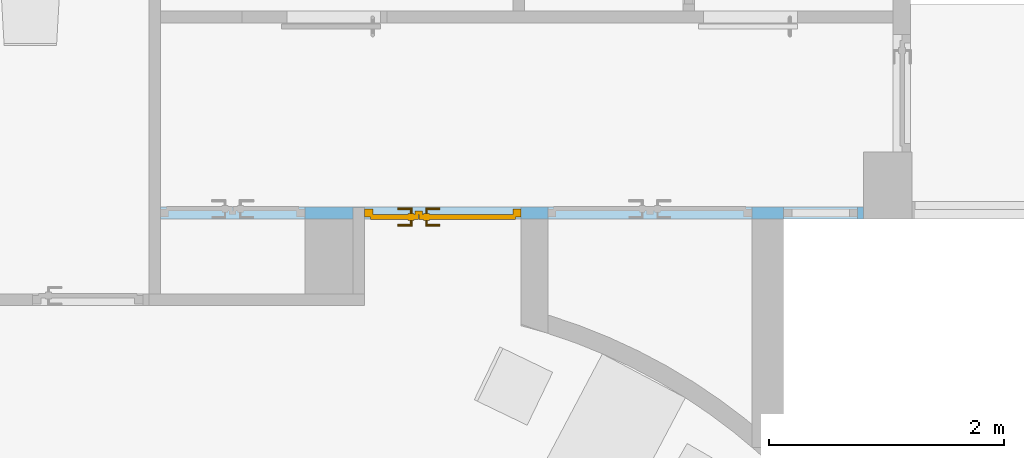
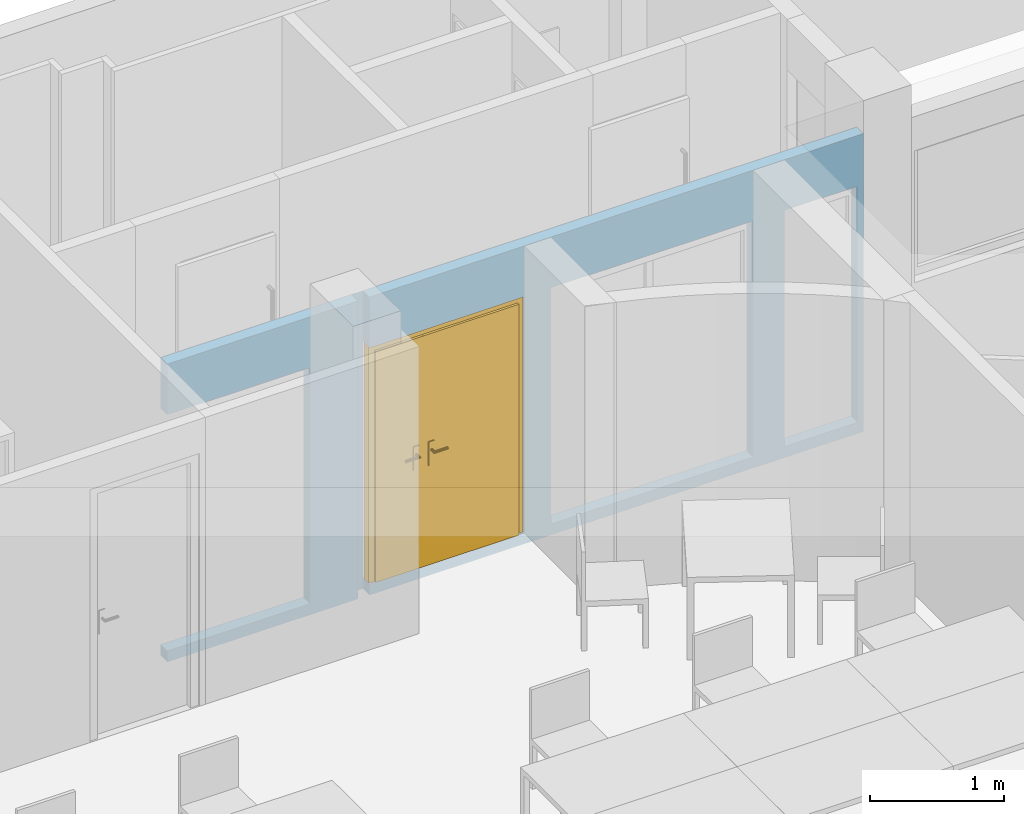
"""IFC4 building model written with IfcOpenShell, lengths in metres."""

from ifc_helpers import new_model, entity, si_unit, converted_unit, derived_unit, frame, origin, origin_with_axes, place, context, subcontext, project, spatial, polyline, outline, extrude, faceted_brep, source, transform, mapped, material, layer, layer_set, layer_usage, element, fill, save


model = new_model("IFC4")

# Units and contexts
model_context = context("Model", 3, precision=1e-05, world=origin())
body_context = subcontext(model_context, "Body", "Model", "MODEL_VIEW")
ifc_project = project(units=[si_unit("LENGTHUNIT", "METRE"), si_unit("AREAUNIT", "SQUARE_METRE"), si_unit("VOLUMEUNIT", "CUBIC_METRE"), si_unit("MASSUNIT", "GRAM", prefix="KILO"), converted_unit("PLANEANGLEUNIT", "DEGREE", entity("IfcPlaneAngleMeasure", 0.0174532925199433), si_unit("PLANEANGLEUNIT", "RADIAN"), dimensions=[0, 0, 0, 0, 0, 0, 0]), derived_unit("THERMALTRANSMITTANCEUNIT", [(si_unit("POWERUNIT", "WATT"), 1), (si_unit("THERMODYNAMICTEMPERATUREUNIT", "KELVIN"), -1), (si_unit("LENGTHUNIT", "METRE"), -2)]), derived_unit("VOLUMETRICFLOWRATEUNIT", [(si_unit("LENGTHUNIT", "METRE"), 3), (converted_unit("TIMEUNIT", "hour", entity("IfcTimeMeasure", 3600.0), si_unit("TIMEUNIT", "SECOND"), dimensions=[0, 0, 1, 0, 0, 0, 0]), -1), (si_unit("LENGTHUNIT", "METRE"), -1)])], contexts=[model_context])

# Building, storeys
building_placement = place(None, origin())
building = spatial("IfcBuilding", under=ifc_project, at=building_placement, Name="HABITATGE PLURIFAMILIAR", CompositionType="ELEMENT")
storey_1_placement = place(building_placement, frame((0.0, 0.0, 6.25)))
storey_1 = spatial("IfcBuildingStorey", under=building, at=storey_1_placement, Name="PLANTA PRIMERA", CompositionType="ELEMENT", Elevation=6.25)
storey_2_placement = place(storey_1_placement, frame((0.0, 0.0, 3.35)))
storey_2 = spatial("IfcBuildingStorey", under=storey_1, at=storey_2_placement, Name="NOU", CompositionType="PARTIAL")

# Wall, openings, door
ifc_material = material()
ifc_layer = layer(ifc_material, 0.1)
ifc_layer_set = layer_set([ifc_layer])
ifc_layer_usage = layer_usage(ifc_layer_set, "AXIS2", "POSITIVE", 0.0)
wall_placement = place(storey_2_placement, frame((410.426984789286, 24.2594598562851, -3.45), z_axis=(0.0, 0.0, 1.0), x_axis=(-1.0, 0.0, 0.0)))
wall = element("IfcWall", 1, at=wall_placement, inside=storey_2, material=ifc_layer_usage, Name="Envans P1", context=body_context, shape_type="SweptSolid", body=[
    extrude(outline(polyline([(-5.99000001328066, -0.1), (0.0, -0.1), (0.0, 0.0), (-1.63999999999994, 0.0), (-1.63999999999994, -0.0977698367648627), (-1.74, -0.0977698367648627), (-1.74, 0.0), (-5.99000001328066, 0.0), (-5.99000001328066, -0.1)])), frame((5.99000001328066, 0.1, 0.0), z_axis=(0.0, 0.0, 1.0), x_axis=(1.0, 0.0, 0.0)), (0.0, 0.0, 1.0), 2.71),
])
opening_1_placement = place(wall_placement, frame((4.25000001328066, 0.1, 0.1), z_axis=(0.0, 0.0, 1.0), x_axis=(-1.0, 0.0, 0.0)))
opening_1 = element("IfcOpeningElement", 2, at=opening_1_placement, cuts=wall, Name="Vano de puerta P1", ObjectType="Opening", context=body_context, shape_type="SweptSolid", body=[
    extrude(outline(polyline([(0.0, 0.0), (1.33, 0.0), (1.33311274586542, 0.1), (0.0, 0.1), (0.0, 0.0)])), origin_with_axes(), (0.0, 0.0, 1.0), 2.15),
])
opening_2_placement = place(wall_placement, frame((5.99036691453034, 0.1, 0.1), z_axis=(0.0, -1.0, 0.0), x_axis=(0.0, 0.0, 1.0)))
element("IfcOpeningElement", 3, at=opening_2_placement, cuts=wall, Name="Vano de puerta P1", ObjectType="Opening", context=body_context, shape_type="SweptSolid", body=[
    extrude(outline(polyline([(2.15, 1.23), (2.15, 0.0), (0.0, 0.0), (0.0, 1.23), (2.15, 1.23)])), origin_with_axes(), (0.0, 0.0, 1.0), 0.1),
])
opening_3_placement = place(wall_placement, frame((0.679999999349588, 0.1, 0.1), z_axis=(0.0, -1.0, 0.0), x_axis=(0.0, 0.0, 1.0)))
element("IfcOpeningElement", 4, at=opening_3_placement, cuts=wall, Name="Vano de puerta P1", ObjectType="Opening", context=body_context, shape_type="SweptSolid", body=[
    extrude(outline(polyline([(2.15, 0.629999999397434), (2.15, 0.0), (0.0, 0.0), (0.0, 0.629999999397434), (2.15, 0.629999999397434)])), origin_with_axes(), (0.0, 0.0, 1.0), 0.1),
])
opening_4_placement = place(wall_placement, frame((2.69000001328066, 0.1, 0.1), z_axis=(0.0, -1.0, 0.0), x_axis=(0.0, 0.0, 1.0)))
element("IfcOpeningElement", 5, at=opening_4_placement, cuts=wall, Name="Vano de puerta P1", ObjectType="Opening", context=body_context, shape_type="SweptSolid", body=[
    extrude(outline(polyline([(2.15, 1.73999999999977), (2.15, 0.0), (0.0, 0.0), (0.0, 1.73999999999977), (2.15, 1.73999999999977)])), origin_with_axes(), (0.0, 0.0, 1.0), 0.1),
])
shared_shape = source(origin_with_axes(), body_context, "Body", "Brep", [
    faceted_brep([(1.33, 0.07, 2.15), (1.25983617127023, 0.07, 2.15), (1.25983617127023, 0.07, 0.0), (1.33, 0.07, 0.0), (1.33, 0.0, 0.0), (1.25983617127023, 0.0, 0.0), (1.25983617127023, 0.0, 2.15), (1.33, 0.0, 2.15)], [[[0, 1, 2, 3]], [[4, 5, 6, 7]], [[3, 4, 7, 0]], [[2, 5, 4, 3]], [[1, 6, 5, 2]], [[0, 7, 6, 1]]], orient=[[False], [False], [False], [False], [False], [False]]),
    faceted_brep([(0.0670510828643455, 0.07, 2.15), (-0.00311274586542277, 0.07, 2.15), (-0.00311274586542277, 0.07, 0.0), (0.0670510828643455, 0.07, 0.0), (0.0670510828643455, 0.0, 0.0), (-0.00311274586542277, 0.0, 0.0), (-0.00311274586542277, 0.0, 2.15), (0.0670510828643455, 0.0, 2.15)], [[[0, 1, 2, 3]], [[4, 5, 6, 7]], [[3, 4, 7, 0]], [[2, 5, 4, 3]], [[1, 6, 5, 2]], [[0, 7, 6, 1]]], orient=[[False], [False], [False], [False], [False], [False]]),
    faceted_brep([(1.25983617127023, 0.07, 2.15), (0.0670510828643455, 0.07, 2.15), (0.0670510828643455, 0.07, 2.08), (1.25983617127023, 0.07, 2.08), (1.25983617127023, 0.0, 2.08), (0.0670510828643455, 0.0, 2.08), (0.0670510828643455, 0.0, 2.15), (1.25983617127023, 0.0, 2.15)], [[[0, 1, 2, 3]], [[4, 5, 6, 7]], [[3, 4, 7, 0]], [[2, 5, 4, 3]], [[1, 6, 5, 2]], [[0, 7, 6, 1]]], orient=[[False], [False], [False], [False], [False], [False]]),
    faceted_brep([(1.27988297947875, 0.09, 2.1), (0.86992575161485, 0.09, 2.1), (0.86992575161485, 0.09, 0.0), (1.27988297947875, 0.09, 0.0), (1.27988297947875, 0.05, 0.0), (0.86992575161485, 0.05, 0.0), (0.86992575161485, 0.05, 2.1), (1.27988297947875, 0.05, 2.1)], [[[0, 1, 2, 3]], [[4, 5, 6, 7]], [[3, 4, 7, 0]], [[2, 5, 4, 3]], [[1, 6, 5, 2]], [[0, 7, 6, 1]]], orient=[[False], [False], [False], [False], [False], [False]]),
    faceted_brep([(0.899995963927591, 0.05, 2.08), (0.839855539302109, 0.05, 2.08), (0.839855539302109, 0.05, 0.0), (0.899995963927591, 0.05, 0.0), (0.899995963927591, 0.02, 0.0), (0.839855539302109, 0.02, 0.0), (0.839855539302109, 0.02, 2.08), (0.899995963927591, 0.02, 2.08)], [[[0, 1, 2, 3]], [[4, 5, 6, 7]], [[3, 4, 7, 0]], [[2, 5, 4, 3]], [[1, 6, 5, 2]], [[0, 7, 6, 1]]], orient=[[False], [False], [False], [False], [False], [False]]),
    faceted_brep([(0.960136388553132, 0.05, 1.125), (0.910019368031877, 0.05, 1.125), (0.910019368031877, 0.05, 0.91), (0.960136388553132, 0.05, 0.91), (0.960136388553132, 0.04, 0.91), (0.910019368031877, 0.04, 0.91), (0.910019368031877, 0.04, 1.125), (0.960136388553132, 0.04, 1.125)], [[[0, 1, 2, 3]], [[4, 5, 6, 7]], [[3, 4, 7, 0]], [[2, 5, 4, 3]], [[1, 6, 5, 2]], [[0, 7, 6, 1]]], orient=[[False], [False], [False], [False], [False], [False]]),
    faceted_brep([(0.935077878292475, 0.04, 1.06), (0.930066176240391, 0.04, 1.05866025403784), (0.926397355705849, 0.04, 1.055), (0.925054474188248, 0.04, 1.05), (0.926397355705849, 0.04, 1.045), (0.930066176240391, 0.04, 1.04133974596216), (0.935077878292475, 0.04, 1.04), (0.940089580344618, 0.04, 1.04133974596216), (0.94375840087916, 0.04, 1.045), (0.945101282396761, 0.04, 1.05), (0.94375840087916, 0.04, 1.055), (0.940089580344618, 0.04, 1.05866025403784), (0.935077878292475, 0.0, 1.06), (0.930066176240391, -0.005, 1.05866025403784), (0.926397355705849, -0.00866025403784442, 1.055), (0.925054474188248, -0.01, 1.05), (0.926397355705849, -0.00866025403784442, 1.045), (0.930066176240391, -0.005, 1.04133974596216), (0.935077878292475, 0.0, 1.04), (0.940089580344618, 0.005, 1.04133974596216), (0.94375840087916, 0.00866025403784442, 1.045), (0.945101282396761, 0.01, 1.05), (0.94375840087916, 0.00866025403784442, 1.055), (0.940089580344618, 0.005, 1.05866025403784), (1.05034702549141, 0.0, 1.06), (1.05034702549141, 0.005, 1.05866025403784), (1.05034702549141, 0.00866025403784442, 1.055), (1.05034702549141, 0.01, 1.05), (1.05034702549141, 0.00866025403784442, 1.045), (1.05034702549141, 0.005, 1.04133974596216), (1.05034702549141, 0.0, 1.04), (1.05034702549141, -0.005, 1.04133974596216), (1.05034702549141, -0.00866025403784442, 1.045), (1.05034702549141, -0.01, 1.05), (1.05034702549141, -0.00866025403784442, 1.055), (1.05034702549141, -0.005, 1.05866025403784)], [[[0, 1, 2, 3, 4, 5, 6, 7, 8, 9, 10, 11]], [[0, 12, 13, 1]], [[1, 13, 14, 2]], [[2, 14, 15, 3]], [[3, 15, 16, 4]], [[4, 16, 17, 5]], [[5, 17, 18, 6]], [[6, 18, 19, 7]], [[7, 19, 20, 8]], [[8, 20, 21, 9]], [[9, 21, 22, 10]], [[10, 22, 23, 11]], [[11, 23, 12, 0]], [[24, 25, 26, 27, 28, 29, 30, 31, 32, 33, 34, 35]], [[12, 24, 35, 13]], [[13, 35, 34, 14]], [[14, 34, 33, 15]], [[15, 33, 32, 16]], [[16, 32, 31, 17]], [[17, 31, 30, 18]], [[18, 30, 29, 19]], [[19, 29, 28, 20]], [[20, 28, 27, 21]], [[21, 27, 26, 22]], [[22, 26, 25, 23]], [[23, 25, 24, 12]]], orient=[[False], [False], [False], [False], [False], [False], [False], [False], [False], [False], [False], [False], [False], [False], [False], [False], [False], [False], [False], [False], [False], [False], [False], [False], [False], [False]]),
    faceted_brep([(0.960136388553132, 0.09, 1.125), (0.960136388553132, 0.09, 0.91), (0.910019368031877, 0.09, 0.91), (0.910019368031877, 0.09, 1.125), (0.960136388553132, 0.1, 0.91), (0.960136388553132, 0.1, 1.125), (0.910019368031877, 0.1, 1.125), (0.910019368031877, 0.1, 0.91)], [[[0, 1, 2, 3]], [[4, 5, 6, 7]], [[1, 0, 5, 4]], [[2, 1, 4, 7]], [[3, 2, 7, 6]], [[0, 3, 6, 5]]], orient=[[False], [False], [False], [False], [False], [False]]),
    faceted_brep([(0.935077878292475, 0.1, 1.06), (0.940089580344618, 0.1, 1.05866025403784), (0.94375840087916, 0.1, 1.055), (0.945101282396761, 0.1, 1.05), (0.94375840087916, 0.1, 1.045), (0.940089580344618, 0.1, 1.04133974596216), (0.935077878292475, 0.1, 1.04), (0.930066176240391, 0.1, 1.04133974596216), (0.926397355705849, 0.1, 1.045), (0.925054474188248, 0.1, 1.05), (0.926397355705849, 0.1, 1.055), (0.930066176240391, 0.1, 1.05866025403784), (0.930066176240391, 0.145, 1.05866025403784), (0.935077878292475, 0.14, 1.06), (0.926397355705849, 0.148660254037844, 1.055), (0.925054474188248, 0.15, 1.05), (0.926397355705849, 0.148660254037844, 1.045), (0.930066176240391, 0.145, 1.04133974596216), (0.935077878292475, 0.14, 1.04), (0.940089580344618, 0.135, 1.04133974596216), (0.94375840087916, 0.131339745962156, 1.045), (0.945101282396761, 0.13, 1.05), (0.94375840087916, 0.131339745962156, 1.055), (0.940089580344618, 0.135, 1.05866025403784), (1.05034702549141, 0.14, 1.06), (1.05034702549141, 0.145, 1.05866025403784), (1.05034702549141, 0.148660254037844, 1.055), (1.05034702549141, 0.15, 1.05), (1.05034702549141, 0.148660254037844, 1.045), (1.05034702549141, 0.145, 1.04133974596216), (1.05034702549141, 0.14, 1.04), (1.05034702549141, 0.135, 1.04133974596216), (1.05034702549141, 0.131339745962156, 1.045), (1.05034702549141, 0.13, 1.05), (1.05034702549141, 0.131339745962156, 1.055), (1.05034702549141, 0.135, 1.05866025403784)], [[[0, 1, 2, 3, 4, 5, 6, 7, 8, 9, 10, 11]], [[0, 11, 12, 13]], [[11, 10, 14, 12]], [[10, 9, 15, 14]], [[9, 8, 16, 15]], [[8, 7, 17, 16]], [[7, 6, 18, 17]], [[6, 5, 19, 18]], [[5, 4, 20, 19]], [[4, 3, 21, 20]], [[3, 2, 22, 21]], [[2, 1, 23, 22]], [[1, 0, 13, 23]], [[24, 25, 26, 27, 28, 29, 30, 31, 32, 33, 34, 35]], [[13, 12, 25, 24]], [[12, 14, 26, 25]], [[14, 15, 27, 26]], [[15, 16, 28, 27]], [[16, 17, 29, 28]], [[17, 18, 30, 29]], [[18, 19, 31, 30]], [[19, 20, 32, 31]], [[20, 21, 33, 32]], [[21, 22, 34, 33]], [[22, 23, 35, 34]], [[23, 13, 24, 35]]], orient=[[False], [False], [False], [False], [False], [False], [False], [False], [False], [False], [False], [False], [False], [False], [False], [False], [False], [False], [False], [False], [False], [False], [False], [False], [False], [False]]),
    faceted_brep([(0.868923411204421, 0.09, 2.1), (0.047004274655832, 0.09, 2.1), (0.047004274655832, 0.09, 0.0), (0.868923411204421, 0.09, 0.0), (0.868923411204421, 0.05, 0.0), (0.047004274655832, 0.05, 0.0), (0.047004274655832, 0.05, 2.1), (0.868923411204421, 0.05, 2.1)], [[[0, 1, 2, 3]], [[4, 5, 6, 7]], [[3, 4, 7, 0]], [[2, 5, 4, 3]], [[1, 6, 5, 2]], [[0, 7, 6, 1]]], orient=[[False], [False], [False], [False], [False], [False]]),
    faceted_brep([(0.828829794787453, 0.05, 1.125), (0.778712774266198, 0.05, 1.125), (0.778712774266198, 0.05, 0.91), (0.828829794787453, 0.05, 0.91), (0.828829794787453, 0.04, 0.91), (0.778712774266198, 0.04, 0.91), (0.778712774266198, 0.04, 1.125), (0.828829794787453, 0.04, 1.125)], [[[0, 1, 2, 3]], [[4, 5, 6, 7]], [[3, 4, 7, 0]], [[2, 5, 4, 3]], [[1, 6, 5, 2]], [[0, 7, 6, 1]]], orient=[[False], [False], [False], [False], [False], [False]]),
    faceted_brep([(0.803771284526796, 0.04, 1.06), (0.798759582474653, 0.04, 1.05866025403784), (0.795090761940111, 0.04, 1.055), (0.793747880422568, 0.04, 1.05), (0.795090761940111, 0.04, 1.045), (0.798759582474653, 0.04, 1.04133974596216), (0.803771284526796, 0.04, 1.04), (0.808782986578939, 0.04, 1.04133974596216), (0.812451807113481, 0.04, 1.045), (0.813794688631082, 0.04, 1.05), (0.812451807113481, 0.04, 1.055), (0.808782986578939, 0.04, 1.05866025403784), (0.808782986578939, -0.005, 1.05866025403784), (0.803771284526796, 0.0, 1.06), (0.812451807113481, -0.00866025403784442, 1.055), (0.813794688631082, -0.01, 1.05), (0.812451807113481, -0.00866025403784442, 1.045), (0.808782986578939, -0.005, 1.04133974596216), (0.803771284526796, 0.0, 1.04), (0.798759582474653, 0.005, 1.04133974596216), (0.795090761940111, 0.00866025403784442, 1.045), (0.793747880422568, 0.01, 1.05), (0.795090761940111, 0.00866025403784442, 1.055), (0.798759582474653, 0.005, 1.05866025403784), (0.688502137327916, 0.0, 1.06), (0.688502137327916, -0.005, 1.05866025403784), (0.688502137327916, -0.00866025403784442, 1.055), (0.688502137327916, -0.01, 1.05), (0.688502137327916, -0.00866025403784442, 1.045), (0.688502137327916, -0.005, 1.04133974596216), (0.688502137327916, 0.0, 1.04), (0.688502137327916, 0.005, 1.04133974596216), (0.688502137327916, 0.00866025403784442, 1.045), (0.688502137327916, 0.01, 1.05), (0.688502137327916, 0.00866025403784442, 1.055), (0.688502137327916, 0.005, 1.05866025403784)], [[[0, 1, 2, 3, 4, 5, 6, 7, 8, 9, 10, 11]], [[0, 11, 12, 13]], [[11, 10, 14, 12]], [[10, 9, 15, 14]], [[9, 8, 16, 15]], [[8, 7, 17, 16]], [[7, 6, 18, 17]], [[6, 5, 19, 18]], [[5, 4, 20, 19]], [[4, 3, 21, 20]], [[3, 2, 22, 21]], [[2, 1, 23, 22]], [[1, 0, 13, 23]], [[24, 25, 26, 27, 28, 29, 30, 31, 32, 33, 34, 35]], [[13, 12, 25, 24]], [[12, 14, 26, 25]], [[14, 15, 27, 26]], [[15, 16, 28, 27]], [[16, 17, 29, 28]], [[17, 18, 30, 29]], [[18, 19, 31, 30]], [[19, 20, 32, 31]], [[20, 21, 33, 32]], [[21, 22, 34, 33]], [[22, 23, 35, 34]], [[23, 13, 24, 35]]], orient=[[False], [False], [False], [False], [False], [False], [False], [False], [False], [False], [False], [False], [False], [False], [False], [False], [False], [False], [False], [False], [False], [False], [False], [False], [False], [False]]),
    faceted_brep([(0.828829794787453, 0.09, 1.125), (0.828829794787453, 0.09, 0.91), (0.778712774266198, 0.09, 0.91), (0.778712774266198, 0.09, 1.125), (0.828829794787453, 0.1, 0.91), (0.828829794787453, 0.1, 1.125), (0.778712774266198, 0.1, 1.125), (0.778712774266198, 0.1, 0.91)], [[[0, 1, 2, 3]], [[4, 5, 6, 7]], [[1, 0, 5, 4]], [[2, 1, 4, 7]], [[3, 2, 7, 6]], [[0, 3, 6, 5]]], orient=[[False], [False], [False], [False], [False], [False]]),
    faceted_brep([(0.803771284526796, 0.1, 1.06), (0.808782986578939, 0.1, 1.05866025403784), (0.812451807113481, 0.1, 1.055), (0.813794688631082, 0.1, 1.05), (0.812451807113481, 0.1, 1.045), (0.808782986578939, 0.1, 1.04133974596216), (0.803771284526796, 0.1, 1.04), (0.798759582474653, 0.1, 1.04133974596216), (0.795090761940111, 0.1, 1.045), (0.793747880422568, 0.1, 1.05), (0.795090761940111, 0.1, 1.055), (0.798759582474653, 0.1, 1.05866025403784), (0.803771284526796, 0.14, 1.06), (0.808782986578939, 0.145, 1.05866025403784), (0.812451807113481, 0.148660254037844, 1.055), (0.813794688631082, 0.15, 1.05), (0.812451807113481, 0.148660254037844, 1.045), (0.808782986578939, 0.145, 1.04133974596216), (0.803771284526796, 0.14, 1.04), (0.798759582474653, 0.135, 1.04133974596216), (0.795090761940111, 0.131339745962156, 1.045), (0.793747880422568, 0.13, 1.05), (0.795090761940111, 0.131339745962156, 1.055), (0.798759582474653, 0.135, 1.05866025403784), (0.688502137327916, 0.14, 1.06), (0.688502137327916, 0.135, 1.05866025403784), (0.688502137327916, 0.131339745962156, 1.055), (0.688502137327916, 0.13, 1.05), (0.688502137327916, 0.131339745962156, 1.045), (0.688502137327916, 0.135, 1.04133974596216), (0.688502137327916, 0.14, 1.04), (0.688502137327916, 0.145, 1.04133974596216), (0.688502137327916, 0.148660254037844, 1.045), (0.688502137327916, 0.15, 1.05), (0.688502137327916, 0.148660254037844, 1.055), (0.688502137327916, 0.145, 1.05866025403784)], [[[0, 1, 2, 3, 4, 5, 6, 7, 8, 9, 10, 11]], [[0, 12, 13, 1]], [[1, 13, 14, 2]], [[2, 14, 15, 3]], [[3, 15, 16, 4]], [[4, 16, 17, 5]], [[5, 17, 18, 6]], [[6, 18, 19, 7]], [[7, 19, 20, 8]], [[8, 20, 21, 9]], [[9, 21, 22, 10]], [[10, 22, 23, 11]], [[11, 23, 12, 0]], [[24, 25, 26, 27, 28, 29, 30, 31, 32, 33, 34, 35]], [[12, 24, 35, 13]], [[13, 35, 34, 14]], [[14, 34, 33, 15]], [[15, 33, 32, 16]], [[16, 32, 31, 17]], [[17, 31, 30, 18]], [[18, 30, 29, 19]], [[19, 29, 28, 20]], [[20, 28, 27, 21]], [[21, 27, 26, 22]], [[22, 26, 25, 23]], [[23, 25, 24, 12]]], orient=[[False], [False], [False], [False], [False], [False], [False], [False], [False], [False], [False], [False], [False], [False], [False], [False], [False], [False], [False], [False], [False], [False], [False], [False], [False], [False]]),
])
door_placement = place(opening_1_placement, frame((1.33, 0.085, 0.0), z_axis=(0.0, 0.0, 1.0), x_axis=(-1.0, 0.0, 0.0)))
door = element("IfcDoor", 6, at=door_placement, inside=storey_2, Name="Porta P1", OperationType="USERDEFINED", OverallHeight=2.15, OverallWidth=1.33311, PredefinedType="DOOR", context=body_context, shape_type="MappedRepresentation", body=[
    mapped(shared_shape, transform((0.0, 0.0, 0.0), x_axis=(1.0, 0.0, 0.0), y_axis=(0.0, 1.0, 0.0), z_axis=(0.0, 0.0, 1.0), scale=1.0)),
])
fill(opening_1, door)

save(model, "model.ifc")
